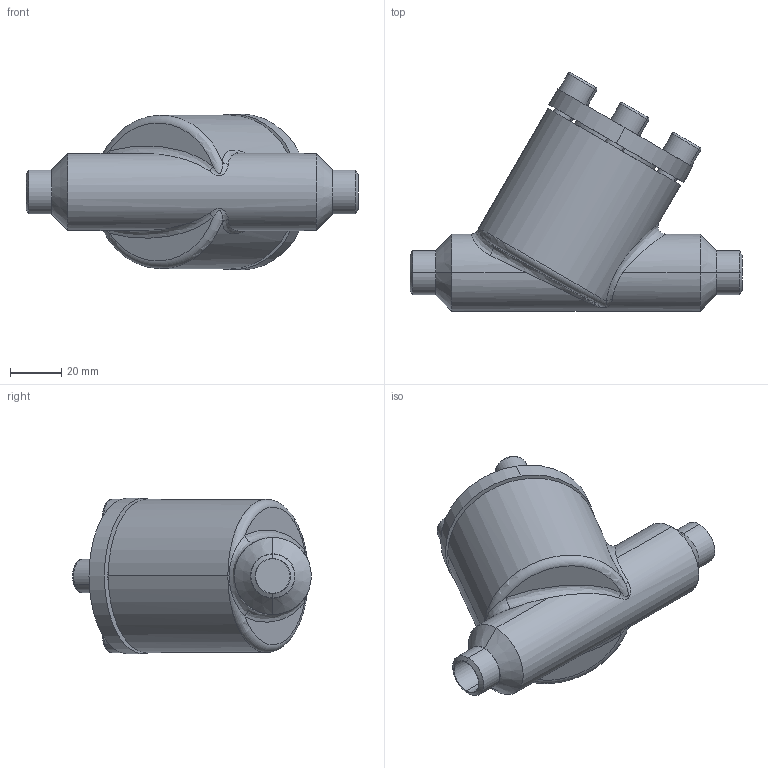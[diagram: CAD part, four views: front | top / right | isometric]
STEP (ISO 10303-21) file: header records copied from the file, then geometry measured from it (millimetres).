
FILE_DESCRIPTION (( 'STEP AP214' ), '1' );
FILE_NAME ('SS52300D08-DN010_R1_PS40.STEP', '2006-05-02T05:42:26', ( 'Herr Grams' ), ( 'AWP GmbH' ), 'SwSTEP 2.0', 'SolidWorks 2002296', '' );
FILE_SCHEMA (( 'AUTOMOTIVE_DESIGN' ));
Length unit declared in the file: millimetre
Products named in the file (5): SS52300D08-DN010_R1_PS40; Gehäuse16300-DN010_Standard; SS52300K10_Deck+Schr-DN10-20_Standard; Deckel52300K10-DN10-20_Standard; Zylinderschraube-DIN912_M 8x 16
Assembly tree (7 placements, depth 3):
  SS52300D08-DN010_R1_PS40
    SS52300K10_Deck+Schr-DN10-20_Standard
      Zylinderschraube-DIN912_M 8x 16  x4
      Deckel52300K10-DN10-20_Standard
    Gehäuse16300-DN010_Standard
Bounding box: 130 x 93.46 x 61 mm (x, y, z)
Volume: 223512.6 mm3; surface area: 40935.6 mm2
Topology: 6 solids, 6 shells, 134 faces, 287 edges, 181 vertices
Faces by surface type: plane 55, cylinder 47, cone 16, torus 10, bspline 6
Entity records: 15327 total; most frequent: CARTESIAN_POINT 13069, DIRECTION 416, ORIENTED_EDGE 346, AXIS2_PLACEMENT_3D 176, EDGE_CURVE 173, VERTEX_POINT 109, EDGE_LOOP 98, CIRCLE 91
